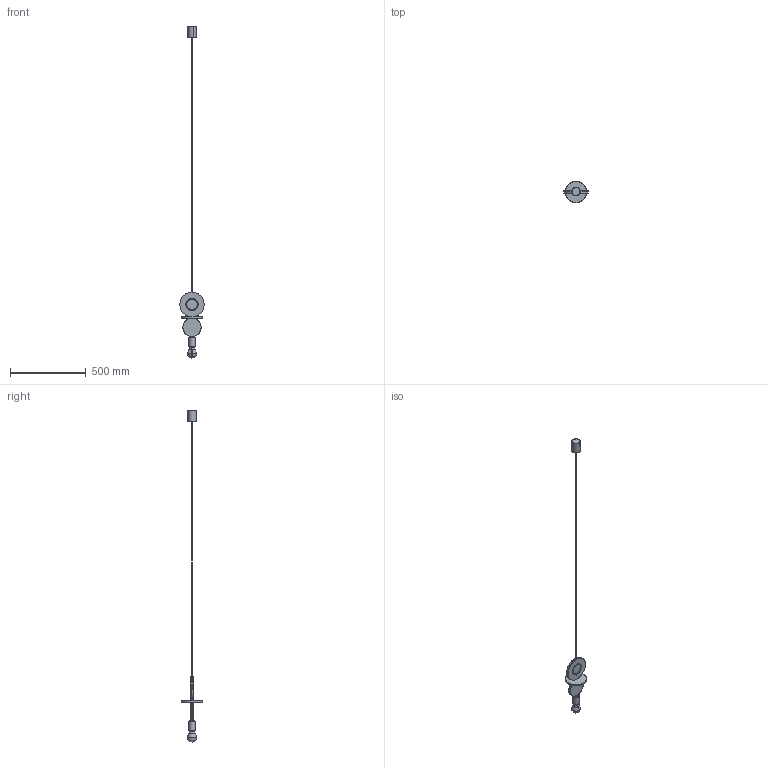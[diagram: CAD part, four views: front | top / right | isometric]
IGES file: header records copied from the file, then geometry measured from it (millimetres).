
Start section: SolidWorks IGES file using analytic representation for surfaces
Global section: file name: Z:\PRODUKT\DESIGN\DROPS WOOD\DROPS WOOD PM\drops wood  C PM\model 3d\DROPS WOOD C pm.IGS; native system: SolidWorks 2023; preprocessor: SolidWorks 2023; author: anna.bielnik; date: 231127.100220; units: millimetre
Bounding box: 160 x 140 x 2185.15 mm (x, y, z)
Surface area: 316332.1 mm2 (no closed solid volume)
Topology: 0 solids, 0 shells, 152 faces, 3770 edges, 3766 vertices
Faces by surface type: bspline 84, revolution 68
